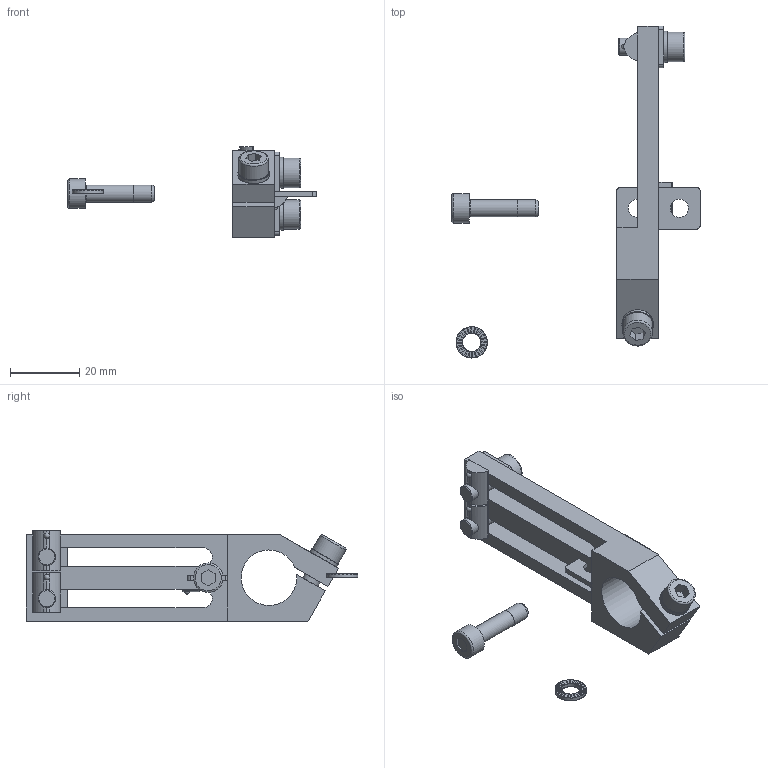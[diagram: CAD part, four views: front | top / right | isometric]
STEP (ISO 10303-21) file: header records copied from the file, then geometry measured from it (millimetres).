
FILE_DESCRIPTION( ( 'STEP AP214' ), '1' );
FILE_NAME( 'C:/Users/Segreteria/Desktop/CA.04.02.001.5.stp', '2015-04-10T07:12:30', ( ' ' ), ( ' ' ), 'XStep 1.0', ' ', ' ' );
FILE_SCHEMA( ( 'CONFIG_CONTROL_DESIGN) ( )' ) );
Length unit declared in the file: metre
Products named in the file (8): Assem1; Assem2; R.5.SCH; V-tcei M  5 x 20; 04.02.001; R.05.12; V-tcei M  5 x 14; CA.02.05.003
Bounding box: 71.5 x 95.64 x 26 mm (x, y, z)
Volume: 36303.2 mm3; surface area: 26811.4 mm2
Topology: 14 solids, 19 shells, 1192 faces, 3452 edges, 2292 vertices
Faces by surface type: plane 1089, cylinder 82, torus 12, cone 6, bspline 3
Full cylindrical faces by diameter (mm): 4.134 x3, 5 x9, 5.3 x9, 5.5 x3, 8.5 x6, 9 x5
Entity records: 9043 total; most frequent: CARTESIAN_POINT 1667, DIRECTION 1552, ORIENTED_EDGE 1498, EDGE_CURVE 749, AXIS2_PLACEMENT_3D 528, VERTEX_POINT 507, LINE 496, VECTOR 496
